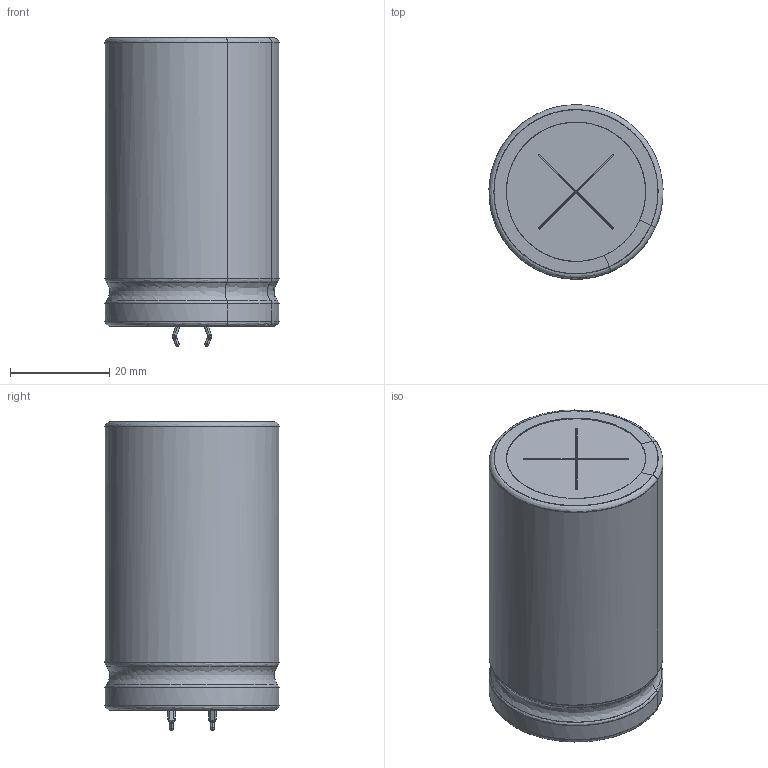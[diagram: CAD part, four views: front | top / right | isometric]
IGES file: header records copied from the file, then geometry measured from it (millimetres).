
Start section: JAMA-IS VERSION  1.0
Bounding box: 34.98 x 34.98 x 62.02 mm (x, y, z)
Surface area: 22282 mm2 (no closed solid volume)
Topology: 0 solids, 0 shells, 208 faces, 2354 edges, 2318 vertices
Faces by surface type: bspline 208
